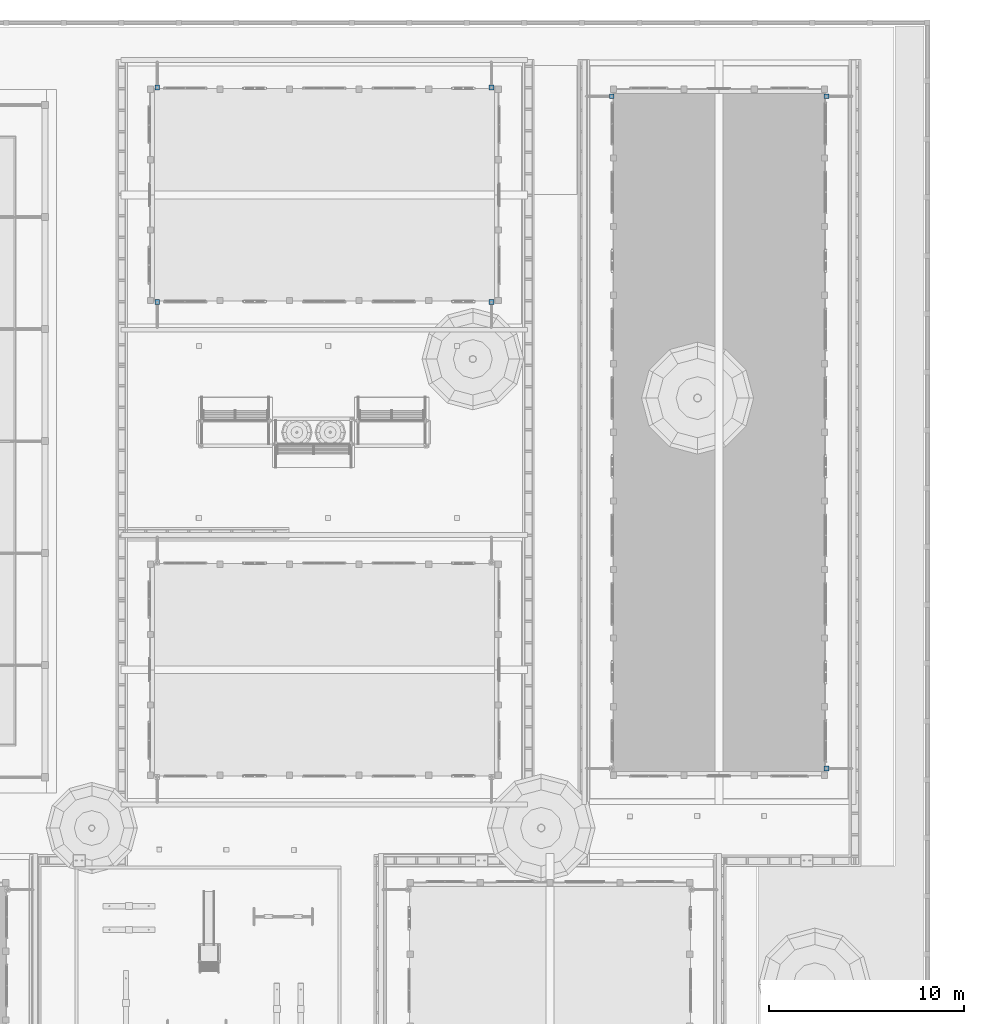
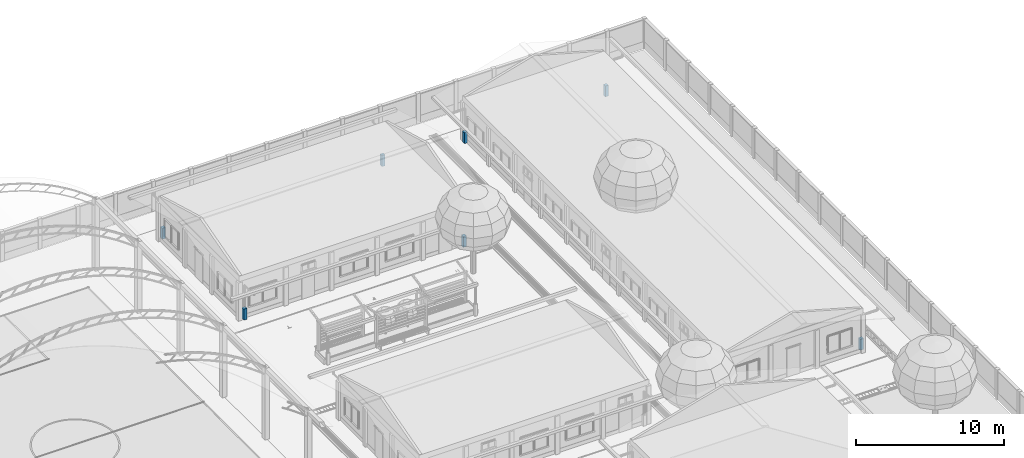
# One storey, part 14 of 166: 7 columns.
"""IFC2X3 building model written with IfcOpenShell, lengths in metres."""

from ifc_helpers import new_model, si_unit, origin, origin_with_axes, place, context, subcontext, project, spatial, faceted_brep, element, save


model = new_model("IFC2X3")

# Units and contexts
model_context = context("Model", 3, precision=1e-05, world=origin_with_axes())
body_context = subcontext(model_context, "Body", "Model", "MODEL_VIEW")
ifc_project = project(units=[si_unit("LENGTHUNIT", "METRE"), si_unit("AREAUNIT", "SQUARE_METRE"), si_unit("VOLUMEUNIT", "CUBIC_METRE"), si_unit("PLANEANGLEUNIT", "RADIAN")], contexts=[model_context])

# Site, building, storey
site_placement = place(None, origin_with_axes())
site = spatial("IfcSite", under=ifc_project, at=site_placement, Name="Predio Los Mangos - Morales, San Martín", CompositionType="ELEMENT")
building_placement = place(site_placement, origin())
building = spatial("IfcBuilding", under=site, at=building_placement, Name="Hogar de Refugio Temporal", CompositionType="ELEMENT")
storey_placement = place(building_placement, origin())
storey = spatial("IfcBuildingStorey", under=building, at=storey_placement, Name="NIVEL 1 (NPT +0.00)", CompositionType="ELEMENT", Elevation=0.0)

# Columns
column_1_placement = place(storey_placement, origin())
element("IfcColumn", 1, at=column_1_placement, inside=storey, Name="falsa_columna", ObjectType="Falsa columna", context=body_context, shape_type="Brep", body=[
    faceted_brep([(32.225, 116.785, 0.15), (32.225, 117.035, 0.15), (32.475, 117.035, 0.15), (32.475, 116.785, 0.15), (32.225, 116.785, 1.05), (32.475, 116.785, 1.05), (32.475, 117.035, 1.05), (32.225, 117.035, 1.05)], [[[0, 1, 2, 3]], [[4, 5, 6, 7]], [[0, 3, 5, 4]], [[3, 2, 6, 5]], [[2, 1, 7, 6]], [[1, 0, 4, 7]]]),
])
column_2_placement = place(storey_placement, origin())
element("IfcColumn", 2, at=column_2_placement, inside=storey, Name="falsa_columna", ObjectType="Falsa columna", context=body_context, shape_type="Brep", body=[
    faceted_brep([(49.325, 116.785, 0.15), (49.325, 117.035, 0.15), (49.575, 117.035, 0.15), (49.575, 116.785, 0.15), (49.325, 116.785, 1.05), (49.575, 116.785, 1.05), (49.575, 117.035, 1.05), (49.325, 117.035, 1.05)], [[[0, 1, 2, 3]], [[4, 5, 6, 7]], [[0, 3, 5, 4]], [[3, 2, 6, 5]], [[2, 1, 7, 6]], [[1, 0, 4, 7]]]),
])
column_3_placement = place(storey_placement, origin())
element("IfcColumn", 3, at=column_3_placement, inside=storey, Name="falsa_columna", ObjectType="Falsa columna", context=body_context, shape_type="Brep", body=[
    faceted_brep([(32.225, 127.765, 0.15), (32.225, 128.015, 0.15), (32.475, 128.015, 0.15), (32.475, 127.765, 0.15), (32.225, 127.765, 1.05), (32.475, 127.765, 1.05), (32.475, 128.015, 1.05), (32.225, 128.015, 1.05)], [[[0, 1, 2, 3]], [[4, 5, 6, 7]], [[0, 3, 5, 4]], [[3, 2, 6, 5]], [[2, 1, 7, 6]], [[1, 0, 4, 7]]]),
])
column_4_placement = place(storey_placement, origin())
element("IfcColumn", 4, at=column_4_placement, inside=storey, Name="falsa_columna", ObjectType="Falsa columna", context=body_context, shape_type="Brep", body=[
    faceted_brep([(49.325, 127.765, 0.15), (49.325, 128.015, 0.15), (49.575, 128.015, 0.15), (49.575, 127.765, 0.15), (49.325, 127.765, 1.05), (49.575, 127.765, 1.05), (49.575, 128.015, 1.05), (49.325, 128.015, 1.05)], [[[0, 1, 2, 3]], [[4, 5, 6, 7]], [[0, 3, 5, 4]], [[3, 2, 6, 5]], [[2, 1, 7, 6]], [[1, 0, 4, 7]]]),
])
column_5_placement = place(storey_placement, origin())
element("IfcColumn", 5, at=column_5_placement, inside=storey, Name="falsa_columna", ObjectType="Falsa columna", context=body_context, shape_type="Brep", body=[
    faceted_brep([(55.485, 127.325, 0.15), (55.485, 127.575, 0.15), (55.735, 127.575, 0.15), (55.735, 127.325, 0.15), (55.485, 127.325, 1.05), (55.735, 127.325, 1.05), (55.735, 127.575, 1.05), (55.485, 127.575, 1.05)], [[[0, 1, 2, 3]], [[4, 5, 6, 7]], [[0, 3, 5, 4]], [[3, 2, 6, 5]], [[2, 1, 7, 6]], [[1, 0, 4, 7]]]),
])
column_6_placement = place(storey_placement, origin())
element("IfcColumn", 6, at=column_6_placement, inside=storey, Name="falsa_columna", ObjectType="Falsa columna", context=body_context, shape_type="Brep", body=[
    faceted_brep([(66.465, 92.925, 0.15), (66.465, 93.175, 0.15), (66.715, 93.175, 0.15), (66.715, 92.925, 0.15), (66.465, 92.925, 1.05), (66.715, 92.925, 1.05), (66.715, 93.175, 1.05), (66.465, 93.175, 1.05)], [[[0, 1, 2, 3]], [[4, 5, 6, 7]], [[0, 3, 5, 4]], [[3, 2, 6, 5]], [[2, 1, 7, 6]], [[1, 0, 4, 7]]]),
])
column_7_placement = place(storey_placement, origin())
element("IfcColumn", 7, at=column_7_placement, inside=storey, Name="falsa_columna", ObjectType="Falsa columna", context=body_context, shape_type="Brep", body=[
    faceted_brep([(66.465, 127.325, 0.15), (66.465, 127.575, 0.15), (66.715, 127.575, 0.15), (66.715, 127.325, 0.15), (66.465, 127.325, 1.05), (66.715, 127.325, 1.05), (66.715, 127.575, 1.05), (66.465, 127.575, 1.05)], [[[0, 1, 2, 3]], [[4, 5, 6, 7]], [[0, 3, 5, 4]], [[3, 2, 6, 5]], [[2, 1, 7, 6]], [[1, 0, 4, 7]]]),
])

save(model, "model.ifc")
